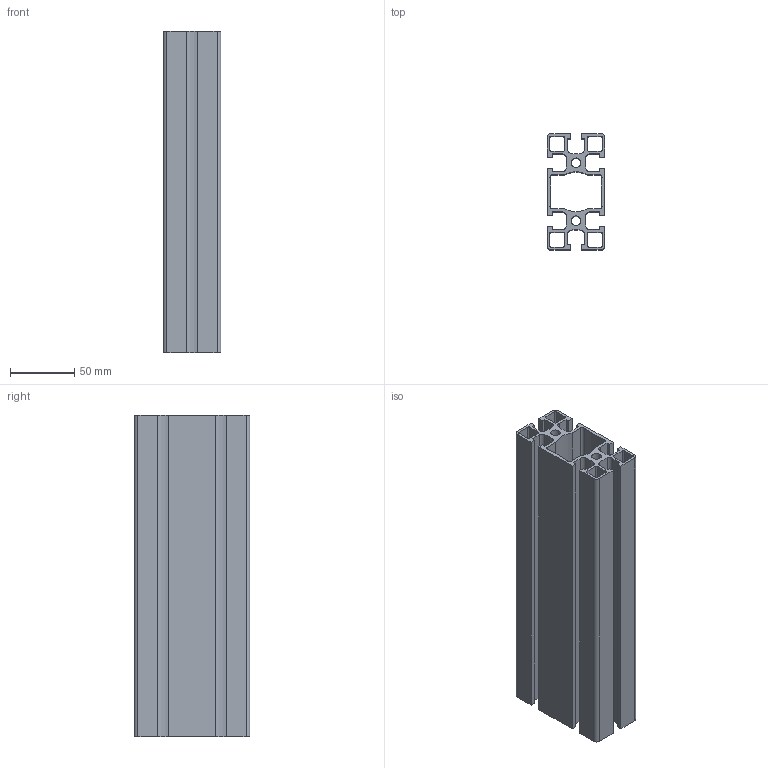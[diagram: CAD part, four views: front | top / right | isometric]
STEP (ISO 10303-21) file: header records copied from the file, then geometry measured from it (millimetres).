
FILE_DESCRIPTION (( 'STEP AP214' ), '1' );
FILE_NAME ('SA01003.step', '2024-12-03T16:28:15', ( '' ), ( '' ), 'SwSTEP 2.0', 'SolidWorks 2023', '' );
FILE_SCHEMA (( 'AUTOMOTIVE_DESIGN' ));
Length unit declared in the file: millimetre
Products named in the file (1): SA01003
Bounding box: 45 x 90 x 250 mm (x, y, z)
Volume: 306579.6 mm3; surface area: 215019.8 mm2
Topology: 1 solids, 1 shells, 116 faces, 342 edges, 228 vertices
Faces by surface type: plane 68, cylinder 48
Full cylindrical faces by diameter (mm): 7.45 x2
Entity records: 3923 total; most frequent: CARTESIAN_POINT 685, ORIENTED_EDGE 680, DIRECTION 670, EDGE_CURVE 340, LINE 244, VECTOR 244, VERTEX_POINT 228, AXIS2_PLACEMENT_3D 213
